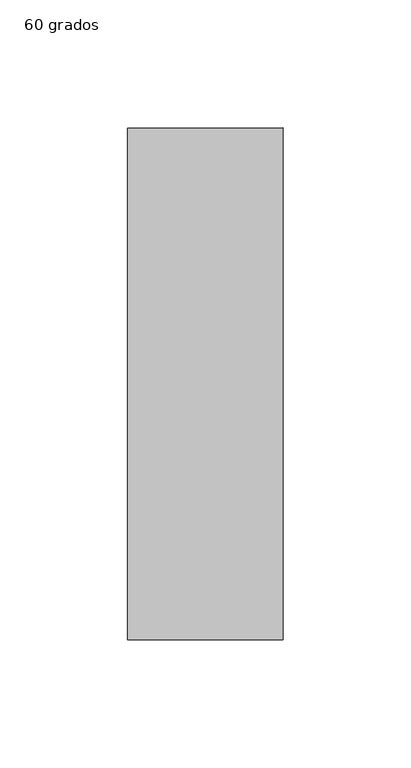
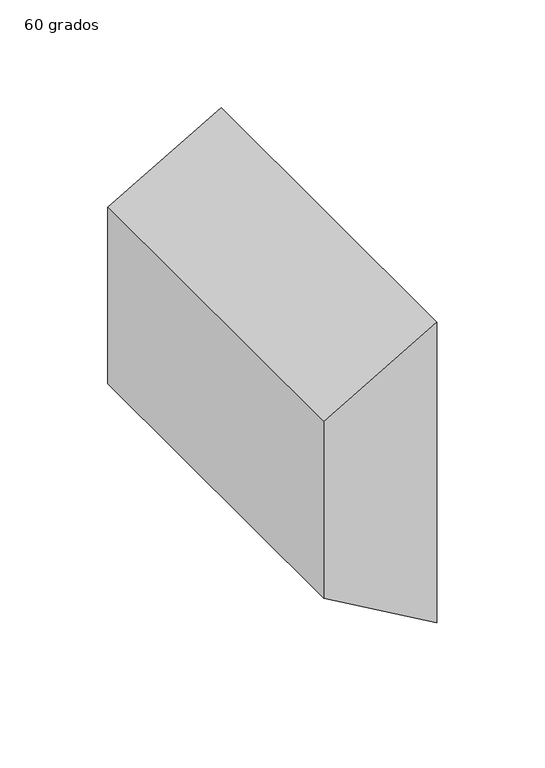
"""IFC4 building model written with IfcOpenShell, lengths in millimetres: duct fitting geometry, M_Transición rectangular - Ángulo : 60 grados."""

import ifcopenshell
import ifcopenshell.guid

model = None  # the IFC model being written
_history = None  # IfcOwnerHistory: only IFC2X3 demands one
_inside = {}  # id of a spatial element -> (the spatial element, [elements in it])
_under = {}  # id of a project, library or spatial element -> (it, [spatial elements below it])
_declared = {}  # id of a project -> (the project, [libraries it declares])
_typed = {}  # id of a type object -> (the type object, [elements of that type])
_made_of = {}  # id of a material, layer set ... -> (it, [elements and type objects made of it])


def new_model(schema):
    """Start an empty IFC model of exactly this schema.

    Asked for "IFC4X3", IfcOpenShell would pick the latest addendum, in which some entities
    have other attributes; the version numbers below select the first issue.
    IFC2X3 requires an IfcOwnerHistory on every rooted entity: one is made here for all.
    """
    global model, _history
    if schema == "IFC4X3":
        model = ifcopenshell.file(schema_version=(4, 3, 0, 0))
    else:
        model = ifcopenshell.file(schema=schema)
    _inside.clear()
    _under.clear()
    _declared.clear()
    _typed.clear()
    _made_of.clear()
    _history = None
    if model.schema == "IFC2X3":
        org = make("IfcOrganization", Name="unknown")
        user = make(
            "IfcPersonAndOrganization",
            ThePerson=make("IfcPerson", FamilyName="unknown"),
            TheOrganization=org,
        )
        app = make(
            "IfcApplication",
            ApplicationDeveloper=org,
            Version="unknown",
            ApplicationFullName="unknown",
            ApplicationIdentifier="unknown",
        )
        _history = make(
            "IfcOwnerHistory",
            OwningUser=user,
            OwningApplication=app,
            ChangeAction="ADDED",
            CreationDate=0,
        )
    return model


def make(cls, **values):
    """One entity of the class cls with the attributes given. An attribute that is None is left unset."""
    return model.create_entity(
        cls, **{name: value for name, value in values.items() if value is not None}
    )


def rooted(cls, **values):
    """An entity with a GlobalId (a new one), such as an element, a storey or a relation."""
    return make(cls, GlobalId=ifcopenshell.guid.new(), OwnerHistory=_history, **values)


def si_unit(unit_type, name, prefix=None):
    """IfcSIUnit, for example si_unit("LENGTHUNIT", "METRE", prefix="MILLI")."""
    return make("IfcSIUnit", UnitType=unit_type, Prefix=prefix, Name=name)


def assignment(units):
    """IfcUnitAssignment: the units of a project."""
    return None if units is None else make("IfcUnitAssignment", Units=units)


def point(xyz):
    """IfcCartesianPoint."""
    return None if xyz is None else make("IfcCartesianPoint", Coordinates=xyz)


def direction(xyz):
    """IfcDirection."""
    return None if xyz is None else make("IfcDirection", DirectionRatios=xyz)


def frame(location, z_axis=None, x_axis=None):
    """IfcAxis2Placement3D, a coordinate frame: its origin and axes. An axis left out is left unset."""
    return make(
        "IfcAxis2Placement3D",
        Location=point(location),
        Axis=direction(z_axis),
        RefDirection=direction(x_axis),
    )


def origin():
    """The frame at (0, 0, 0) with its axes left unset."""
    return frame((0.0, 0.0, 0.0))


def place(relative_to, where):
    """IfcLocalPlacement: puts the frame where relative to a parent placement (None: the world)."""
    return make(
        "IfcLocalPlacement", PlacementRelTo=relative_to, RelativePlacement=where
    )


def context(
    kind, dimensions, precision=None, world=None, true_north=None, identifier=None
):
    """IfcGeometricRepresentationContext, for example the 3D "Model" context."""
    return make(
        "IfcGeometricRepresentationContext",
        ContextIdentifier=identifier,
        ContextType=kind,
        CoordinateSpaceDimension=dimensions,
        Precision=precision,
        WorldCoordinateSystem=world,
        TrueNorth=true_north,
    )


def project(units=None, contexts=None):
    """IfcProject with its units and contexts."""
    return rooted(
        "IfcProject",
        Name="project",
        RepresentationContexts=contexts,
        UnitsInContext=assignment(units),
    )


def spatial(cls, under=None, at=None, **own):
    """A site, building, storey or space (cls), placed at a placement, below another one or the project."""
    s = rooted(cls, ObjectPlacement=at, **own)
    if under is not None:
        _under.setdefault(under.id(), (under, []))[1].append(s)
    return s


def polyline(points):
    """IfcPolyline through the points."""
    return make("IfcPolyline", Points=[point(p) for p in points])


def outline(outer, holes=None, kind="AREA"):
    """IfcArbitraryClosedProfileDef: a profile drawn as a closed curve; with holes, ...WithVoids."""
    if holes is None:
        return make("IfcArbitraryClosedProfileDef", ProfileType=kind, OuterCurve=outer)
    return make(
        "IfcArbitraryProfileDefWithVoids",
        ProfileType=kind,
        OuterCurve=outer,
        InnerCurves=holes,
    )


def extrude(swept, where, along, depth):
    """IfcExtrudedAreaSolid: the profile swept, set in the frame where, extruded along a direction by depth."""
    return make(
        "IfcExtrudedAreaSolid",
        SweptArea=swept,
        Position=where,
        ExtrudedDirection=direction(along),
        Depth=depth,
    )


def shape(context_of_items, identifier, shape_type, items):
    """IfcShapeRepresentation: the items that make up one representation, for example the "Body"."""
    return make(
        "IfcShapeRepresentation",
        ContextOfItems=context_of_items,
        RepresentationIdentifier=identifier,
        RepresentationType=shape_type,
        Items=items,
    )


def source(mapping_origin, context_of_items, identifier, shape_type, items):
    """IfcRepresentationMap: a shape defined once, which mapped items show again and again."""
    return make(
        "IfcRepresentationMap",
        MappingOrigin=mapping_origin,
        MappedRepresentation=shape(context_of_items, identifier, shape_type, items),
    )


def transform(
    local_origin,
    x_axis=None,
    y_axis=None,
    z_axis=None,
    scale=None,
    scale2=None,
    scale3=None,
    uniform=True,
):
    """IfcCartesianTransformationOperator3D, or its non-uniform kind. x_axis, y_axis, z_axis: its Axis1, 2, 3."""
    if uniform:
        return make(
            "IfcCartesianTransformationOperator3D",
            Axis1=direction(x_axis),
            Axis2=direction(y_axis),
            LocalOrigin=point(local_origin),
            Scale=scale,
            Axis3=direction(z_axis),
        )
    return make(
        "IfcCartesianTransformationOperator3DnonUniform",
        Axis1=direction(x_axis),
        Axis2=direction(y_axis),
        LocalOrigin=point(local_origin),
        Scale=scale,
        Axis3=direction(z_axis),
        Scale2=scale2,
        Scale3=scale3,
    )


def mapped(mapping_source, mapping_target):
    """IfcMappedItem: shows the shape of a source again, moved by a transform."""
    return make(
        "IfcMappedItem", MappingSource=mapping_source, MappingTarget=mapping_target
    )


def made_of(thing, what):
    """Note that an element or type object is made of a material, layer set ...; save() writes the relation."""
    if what is not None:
        _made_of.setdefault(what.id(), (what, []))[1].append(thing)
    return thing


def element(
    cls,
    number,
    at=None,
    inside=None,
    cuts=None,
    type_object=None,
    material=None,
    context=None,
    identifier="Body",
    shape_type=None,
    held_by="IfcProductDefinitionShape",
    body=None,
    shapes=None,
    **own,
):
    """One element of the class cls, such as IfcWall. Its Tag is "e" and its number.

    at: its placement. inside: the storey or other place that contains it. cuts: it is an
    opening in that element (IfcRelVoidsElement). A single representation is given by context,
    identifier, shape_type and body (its items); several are given by shapes. held_by: the class
    of the entity that holds the representations. save() writes the other relations.
    """
    e = rooted(cls, Tag="e%d" % number, ObjectPlacement=at, **own)
    if body is not None:
        shapes = [shape(context, identifier, shape_type, body)]
    if shapes is not None:
        e.Representation = make(held_by, Representations=shapes)
    if inside is not None:
        _inside.setdefault(inside.id(), (inside, []))[1].append(e)
    if cuts is not None:
        rooted(
            "IfcRelVoidsElement", RelatingBuildingElement=cuts, RelatedOpeningElement=e
        )
    if type_object is not None:
        _typed.setdefault(type_object.id(), (type_object, []))[1].append(e)
    return made_of(e, material)


def aggregate(whole, parts):
    """IfcRelAggregates: a whole, such as a stair, and the parts it consists of."""
    return rooted("IfcRelAggregates", RelatingObject=whole, RelatedObjects=parts)


def save(model, path):
    """Write the relations noted so far, then the file.

    IfcRelAggregates (storeys below a building ...), IfcRelContainedInSpatialStructure (elements
    in a storey), IfcRelDefinesByType, IfcRelAssociatesMaterial and IfcRelDeclares: one each for
    every whole, place, type object, material and project.
    """
    for whole, parts in _under.values():
        aggregate(whole, parts)
    for where, things in _inside.values():
        rooted(
            "IfcRelContainedInSpatialStructure",
            RelatedElements=things,
            RelatingStructure=where,
        )
    for kind, things in _typed.values():
        rooted("IfcRelDefinesByType", RelatedObjects=things, RelatingType=kind)
    for what, things in _made_of.values():
        rooted("IfcRelAssociatesMaterial", RelatedObjects=things, RelatingMaterial=what)
    for by, libraries in _declared.values():
        rooted("IfcRelDeclares", RelatingContext=by, RelatedDefinitions=libraries)
    model.write(path)


def duct_fitting_60_grados_d4bb8e90(model_context):
    return source(origin(), model_context, "Body", "SweptSolid", [
        extrude(outline(polyline([(50.0, 0.0), (-50.0, 0.0), (-85.0, 60.6217783), (85.0, 60.6217783), (50.0, 0.0)])), frame((0.0, -100.0, 0.0), z_axis=(0.0, 1.0, 0.0), x_axis=(0.0, 0.0, 1.0)), (0.0, 0.0, 1.0), 200.0),
    ])


if __name__ == "__main__":
    model = new_model("IFC4")
    model_context = context("Model", 3, world=origin())
    ifc_project = project(units=[si_unit("LENGTHUNIT", "METRE", prefix="MILLI")], contexts=[model_context])
    site = spatial("IfcSite", under=ifc_project)
    building = spatial("IfcBuilding", under=site)
    placement = place(None, origin())
    duct_fitting_60_grados_shape = duct_fitting_60_grados_d4bb8e90(model_context)
    element("IfcDuctFitting", 1, ObjectType="M_Transición rectangular - Ángulo : 60 grados", at=placement, inside=building, context=model_context, shape_type="MappedRepresentation", body=[
        mapped(duct_fitting_60_grados_shape, transform((0.0, 0.0, 0.0), x_axis=(1.0, 0.0, 0.0), y_axis=(0.0, 1.0, 0.0), z_axis=(0.0, 0.0, 1.0))),
    ])
    save(model, "model.ifc")
